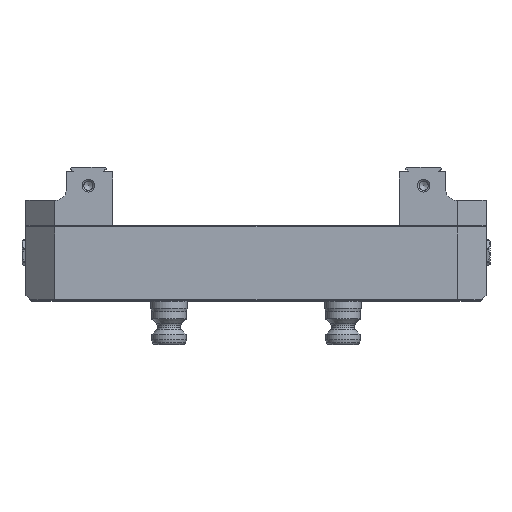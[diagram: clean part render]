
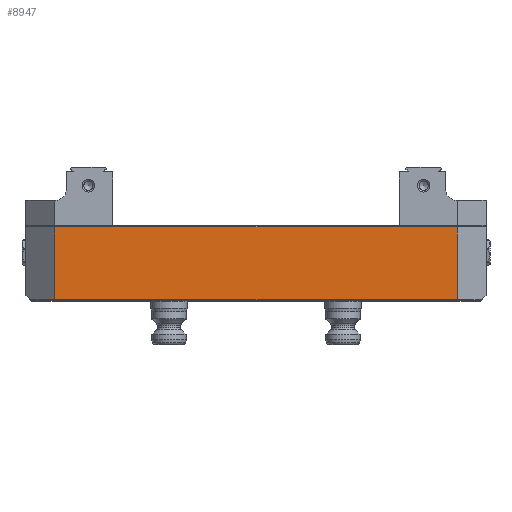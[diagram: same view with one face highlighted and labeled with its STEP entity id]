
A CAD part, top view. The second image highlights one B-rep face of the part: STEP entity #8947.
In plain terms, the highlighted planar face has unit normal (0, 0, 1).
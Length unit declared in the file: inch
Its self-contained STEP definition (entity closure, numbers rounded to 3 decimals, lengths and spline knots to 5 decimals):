
#404 = DIRECTION ( 'NONE',  ( 0., 0., -1. ) ) ;
#1247 = EDGE_CURVE ( 'NONE', #15593, #18265, #14232, .T. ) ;
#1667 = DIRECTION ( 'NONE',  ( 0., 1., 0. ) ) ;
#1972 = DIRECTION ( 'NONE',  ( -1., 0., 0. ) ) ;
#2036 = DIRECTION ( 'NONE',  ( 1., 0., 0. ) ) ;
#2552 = VECTOR ( 'NONE', #2036, 39.37008 ) ;
#2687 = VERTEX_POINT ( 'NONE', #8118 ) ;
#2856 = LINE ( 'NONE', #9417, #4583 ) ;
#3287 = CARTESIAN_POINT ( 'NONE',  ( 4.375, 1.675, 2.475 ) ) ;
#4494 = ORIENTED_EDGE ( 'NONE', *, *, #18704, .T. ) ;
#4583 = VECTOR ( 'NONE', #15955, 39.37008 ) ;
#5634 = ORIENTED_EDGE ( 'NONE', *, *, #1247, .T. ) ;
#5708 = CARTESIAN_POINT ( 'NONE',  ( 4.375, 1.63, 2.475 ) ) ;
#6909 = LINE ( 'NONE', #16751, #2552 ) ;
#8118 = CARTESIAN_POINT ( 'NONE',  ( -4.375, 0.045, 2.475 ) ) ;
#8922 = EDGE_CURVE ( 'NONE', #18265, #2687, #2856, .T. ) ;
#8931 = CARTESIAN_POINT ( 'NONE',  ( -4.375, 1.63, 2.475 ) ) ;
#8947 = ADVANCED_FACE ( 'NONE', ( #9845 ), #16389, .F. ) ;
#9417 = CARTESIAN_POINT ( 'NONE',  ( -4.375, 1.675, 2.475 ) ) ;
#9845 = FACE_OUTER_BOUND ( 'NONE', #16618, .T. ) ;
#10061 = ORIENTED_EDGE ( 'NONE', *, *, #8922, .T. ) ;
#10291 = CARTESIAN_POINT ( 'NONE',  ( 4.375, 0.045, 2.475 ) ) ;
#11224 = VECTOR ( 'NONE', #20693, 39.37008 ) ;
#14232 = LINE ( 'NONE', #18987, #11224 ) ;
#15208 = ORIENTED_EDGE ( 'NONE', *, *, #20278, .T. ) ;
#15593 = VERTEX_POINT ( 'NONE', #5708 ) ;
#15955 = DIRECTION ( 'NONE',  ( 0., -1., 0. ) ) ;
#16389 = PLANE ( 'NONE',  #18286 ) ;
#16618 = EDGE_LOOP ( 'NONE', ( #4494, #5634, #10061, #15208 ) ) ;
#16751 = CARTESIAN_POINT ( 'NONE',  ( 4.375, 0.045, 2.475 ) ) ;
#18153 = VECTOR ( 'NONE', #1667, 39.37008 ) ;
#18265 = VERTEX_POINT ( 'NONE', #8931 ) ;
#18286 = AXIS2_PLACEMENT_3D ( 'NONE', #19823, #404, #1972 ) ;
#18704 = EDGE_CURVE ( 'NONE', #19435, #15593, #19526, .T. ) ;
#18987 = CARTESIAN_POINT ( 'NONE',  ( -5., 1.63, 2.475 ) ) ;
#19435 = VERTEX_POINT ( 'NONE', #10291 ) ;
#19526 = LINE ( 'NONE', #3287, #18153 ) ;
#19823 = CARTESIAN_POINT ( 'NONE',  ( -5., 1.675, 2.475 ) ) ;
#20278 = EDGE_CURVE ( 'NONE', #2687, #19435, #6909, .T. ) ;
#20693 = DIRECTION ( 'NONE',  ( -1., 0., 0. ) ) ;
